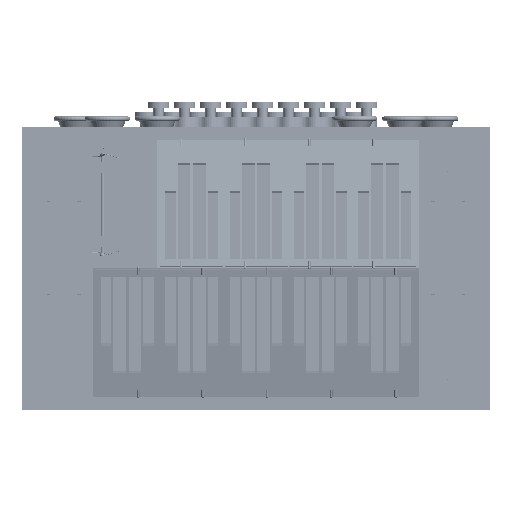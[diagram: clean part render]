
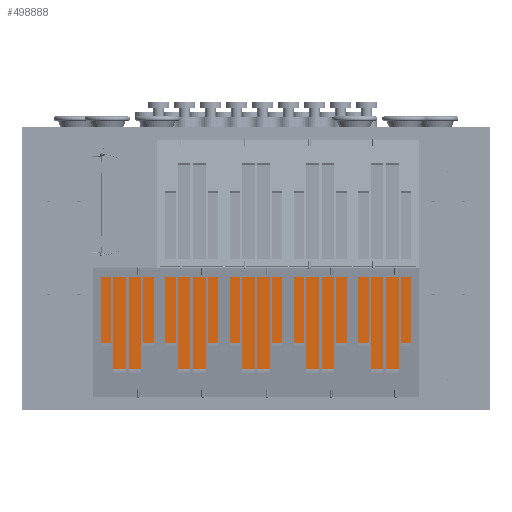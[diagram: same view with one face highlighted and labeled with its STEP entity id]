
A CAD part, top view. The second image highlights one B-rep face of the part: STEP entity #498888.
In plain terms, the highlighted planar face has unit normal (0, 0, 1).
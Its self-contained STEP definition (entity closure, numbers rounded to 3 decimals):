
#498574 = VERTEX_POINT('',#498575);
#498575 = CARTESIAN_POINT('',(288.52,30.,59.5));
#498582 = PLANE('',#498583);
#498583 = AXIS2_PLACEMENT_3D('',#498584,#498585,#498586);
#498584 = CARTESIAN_POINT('',(288.52,30.,58.5));
#498585 = DIRECTION('',(-1.,-0.,-0.));
#498586 = DIRECTION('',(0.,0.,-1.));
#498594 = PLANE('',#498595);
#498595 = AXIS2_PLACEMENT_3D('',#498596,#498597,#498598);
#498596 = CARTESIAN_POINT('',(288.52,30.,58.5));
#498597 = DIRECTION('',(-0.,1.,-0.));
#498598 = DIRECTION('',(0.,0.,-1.));
#498635 = VERTEX_POINT('',#498636);
#498636 = CARTESIAN_POINT('',(288.52,101.,59.5));
#498650 = PLANE('',#498651);
#498651 = AXIS2_PLACEMENT_3D('',#498652,#498653,#498654);
#498652 = CARTESIAN_POINT('',(288.52,101.,58.5));
#498653 = DIRECTION('',(-0.,1.,-0.));
#498654 = DIRECTION('',(0.,0.,-1.));
#498662 = EDGE_CURVE('',#498574,#498635,#498663,.T.);
#498663 = SURFACE_CURVE('',#498664,(#498668,#498675),.PCURVE_S1.);
#498664 = LINE('',#498665,#498666);
#498665 = CARTESIAN_POINT('',(288.52,30.,59.5));
#498666 = VECTOR('',#498667,1.);
#498667 = DIRECTION('',(-0.,1.,-0.));
#498668 = PCURVE('',#498582,#498669);
#498669 = DEFINITIONAL_REPRESENTATION('',(#498670),#498674);
#498670 = LINE('',#498671,#498672);
#498671 = CARTESIAN_POINT('',(-1.,-0.));
#498672 = VECTOR('',#498673,1.);
#498673 = DIRECTION('',(-0.,-1.));
#498674 = ( GEOMETRIC_REPRESENTATION_CONTEXT(2) 
PARAMETRIC_REPRESENTATION_CONTEXT() REPRESENTATION_CONTEXT('2D SPACE',''
  ) );
#498675 = PCURVE('',#498676,#498681);
#498676 = PLANE('',#498677);
#498677 = AXIS2_PLACEMENT_3D('',#498678,#498679,#498680);
#498678 = CARTESIAN_POINT('',(288.52,30.,59.5));
#498679 = DIRECTION('',(-0.,-0.,1.));
#498680 = DIRECTION('',(1.,0.,0.));
#498681 = DEFINITIONAL_REPRESENTATION('',(#498682),#498686);
#498682 = LINE('',#498683,#498684);
#498683 = CARTESIAN_POINT('',(0.,-0.));
#498684 = VECTOR('',#498685,1.);
#498685 = DIRECTION('',(-0.,1.));
#498686 = ( GEOMETRIC_REPRESENTATION_CONTEXT(2) 
PARAMETRIC_REPRESENTATION_CONTEXT() REPRESENTATION_CONTEXT('2D SPACE',''
  ) );
#498694 = VERTEX_POINT('',#498695);
#498695 = CARTESIAN_POINT('',(53.52,30.,59.5));
#498702 = PLANE('',#498703);
#498703 = AXIS2_PLACEMENT_3D('',#498704,#498705,#498706);
#498704 = CARTESIAN_POINT('',(53.52,30.,58.5));
#498705 = DIRECTION('',(-1.,-0.,-0.));
#498706 = DIRECTION('',(0.,0.,-1.));
#498745 = VERTEX_POINT('',#498746);
#498746 = CARTESIAN_POINT('',(53.52,101.,59.5));
#498767 = EDGE_CURVE('',#498694,#498745,#498768,.T.);
#498768 = SURFACE_CURVE('',#498769,(#498773,#498780),.PCURVE_S1.);
#498769 = LINE('',#498770,#498771);
#498770 = CARTESIAN_POINT('',(53.52,30.,59.5));
#498771 = VECTOR('',#498772,1.);
#498772 = DIRECTION('',(-0.,1.,-0.));
#498773 = PCURVE('',#498702,#498774);
#498774 = DEFINITIONAL_REPRESENTATION('',(#498775),#498779);
#498775 = LINE('',#498776,#498777);
#498776 = CARTESIAN_POINT('',(-1.,-0.));
#498777 = VECTOR('',#498778,1.);
#498778 = DIRECTION('',(-0.,-1.));
#498779 = ( GEOMETRIC_REPRESENTATION_CONTEXT(2) 
PARAMETRIC_REPRESENTATION_CONTEXT() REPRESENTATION_CONTEXT('2D SPACE',''
  ) );
#498780 = PCURVE('',#498676,#498781);
#498781 = DEFINITIONAL_REPRESENTATION('',(#498782),#498786);
#498782 = LINE('',#498783,#498784);
#498783 = CARTESIAN_POINT('',(-235.,0.));
#498784 = VECTOR('',#498785,1.);
#498785 = DIRECTION('',(-0.,1.));
#498786 = ( GEOMETRIC_REPRESENTATION_CONTEXT(2) 
PARAMETRIC_REPRESENTATION_CONTEXT() REPRESENTATION_CONTEXT('2D SPACE',''
  ) );
#498813 = EDGE_CURVE('',#498574,#498694,#498814,.T.);
#498814 = SURFACE_CURVE('',#498815,(#498819,#498826),.PCURVE_S1.);
#498815 = LINE('',#498816,#498817);
#498816 = CARTESIAN_POINT('',(288.52,30.,59.5));
#498817 = VECTOR('',#498818,1.);
#498818 = DIRECTION('',(-1.,-0.,-0.));
#498819 = PCURVE('',#498594,#498820);
#498820 = DEFINITIONAL_REPRESENTATION('',(#498821),#498825);
#498821 = LINE('',#498822,#498823);
#498822 = CARTESIAN_POINT('',(-1.,-0.));
#498823 = VECTOR('',#498824,1.);
#498824 = DIRECTION('',(-0.,1.));
#498825 = ( GEOMETRIC_REPRESENTATION_CONTEXT(2) 
PARAMETRIC_REPRESENTATION_CONTEXT() REPRESENTATION_CONTEXT('2D SPACE',''
  ) );
#498826 = PCURVE('',#498676,#498827);
#498827 = DEFINITIONAL_REPRESENTATION('',(#498828),#498832);
#498828 = LINE('',#498829,#498830);
#498829 = CARTESIAN_POINT('',(0.,-0.));
#498830 = VECTOR('',#498831,1.);
#498831 = DIRECTION('',(-1.,0.));
#498832 = ( GEOMETRIC_REPRESENTATION_CONTEXT(2) 
PARAMETRIC_REPRESENTATION_CONTEXT() REPRESENTATION_CONTEXT('2D SPACE',''
  ) );
#498860 = EDGE_CURVE('',#498635,#498745,#498861,.T.);
#498861 = SURFACE_CURVE('',#498862,(#498866,#498873),.PCURVE_S1.);
#498862 = LINE('',#498863,#498864);
#498863 = CARTESIAN_POINT('',(288.52,101.,59.5));
#498864 = VECTOR('',#498865,1.);
#498865 = DIRECTION('',(-1.,-0.,-0.));
#498866 = PCURVE('',#498650,#498867);
#498867 = DEFINITIONAL_REPRESENTATION('',(#498868),#498872);
#498868 = LINE('',#498869,#498870);
#498869 = CARTESIAN_POINT('',(-1.,-0.));
#498870 = VECTOR('',#498871,1.);
#498871 = DIRECTION('',(-0.,1.));
#498872 = ( GEOMETRIC_REPRESENTATION_CONTEXT(2) 
PARAMETRIC_REPRESENTATION_CONTEXT() REPRESENTATION_CONTEXT('2D SPACE',''
  ) );
#498873 = PCURVE('',#498676,#498874);
#498874 = DEFINITIONAL_REPRESENTATION('',(#498875),#498879);
#498875 = LINE('',#498876,#498877);
#498876 = CARTESIAN_POINT('',(0.,71.));
#498877 = VECTOR('',#498878,1.);
#498878 = DIRECTION('',(-1.,0.));
#498879 = ( GEOMETRIC_REPRESENTATION_CONTEXT(2) 
PARAMETRIC_REPRESENTATION_CONTEXT() REPRESENTATION_CONTEXT('2D SPACE',''
  ) );
#498888 = ADVANCED_FACE('',(#498889),#498676,.T.);
#498889 = FACE_BOUND('',#498890,.F.);
#498890 = EDGE_LOOP('',(#498891,#498892,#498893,#498894));
#498891 = ORIENTED_EDGE('',*,*,#498662,.F.);
#498892 = ORIENTED_EDGE('',*,*,#498813,.T.);
#498893 = ORIENTED_EDGE('',*,*,#498767,.T.);
#498894 = ORIENTED_EDGE('',*,*,#498860,.F.);
